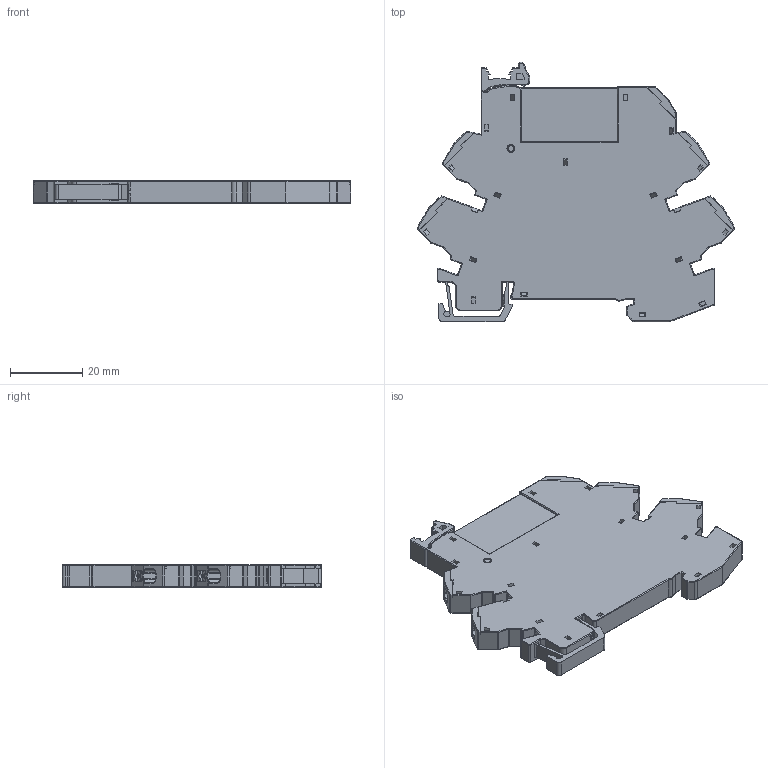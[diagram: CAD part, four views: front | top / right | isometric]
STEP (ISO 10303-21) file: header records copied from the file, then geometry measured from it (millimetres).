
FILE_DESCRIPTION (( 'STEP AP203' ), '1' );
FILE_NAME ('SNB05-ST+RNC 俋倛.STEP', '2023-02-01T01:23:16', ( '' ), ( '' ), 'SwSTEP 2.0', 'SolidWorks 2018', '' );
FILE_SCHEMA (( 'CONFIG_CONTROL_DESIGN' ));
Length unit declared in the file: millimetre
Products named in the file (1): SNB05-ST+RNC 俋倛
Bounding box: 87.99 x 71.86 x 6.2 mm (x, y, z)
Volume: 24211.8 mm3; surface area: 15309.8 mm2
Topology: 2 solids, 2 shells, 1874 faces, 5070 edges, 3163 vertices
Faces by surface type: plane 1189, cylinder 433, torus 93, sphere 73, cone 47, bspline 39
Entity records: 61443 total; most frequent: CARTESIAN_POINT 14965, ORIENTED_EDGE 10058, DIRECTION 9159, EDGE_CURVE 5029, LINE 3835, VECTOR 3835, VERTEX_POINT 3148, AXIS2_PLACEMENT_3D 2662
